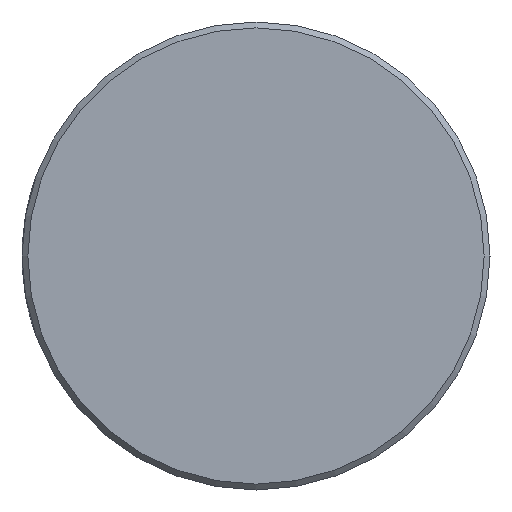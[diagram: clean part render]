
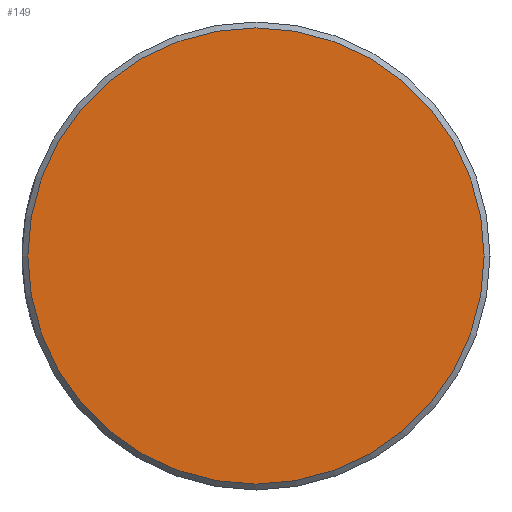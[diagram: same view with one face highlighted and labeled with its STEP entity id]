
A CAD part, left-side view. The second image highlights one B-rep face of the part: STEP entity #149.
In plain terms, the highlighted planar face has unit normal (-1, 0, 0).
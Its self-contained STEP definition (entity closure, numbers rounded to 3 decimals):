
#30=FACE_OUTER_BOUND('',#40,.T.);
#40=EDGE_LOOP('',(#117));
#66=CIRCLE('',#185,7.8);
#78=VERTEX_POINT('',#299);
#94=EDGE_CURVE('',#78,#78,#66,.T.);
#117=ORIENTED_EDGE('',*,*,#94,.F.);
#142=PLANE('',#184);
#149=ADVANCED_FACE('',(#30),#142,.T.);
#184=AXIS2_PLACEMENT_3D('',#298,#215,#216);
#185=AXIS2_PLACEMENT_3D('',#300,#217,#218);
#215=DIRECTION('center_axis',(-1.,0.,0.));
#216=DIRECTION('ref_axis',(0.,0.,1.));
#217=DIRECTION('center_axis',(1.,0.,0.));
#218=DIRECTION('ref_axis',(0.,0.,-1.));
#298=CARTESIAN_POINT('Origin',(-30.,7.8,0.));
#299=CARTESIAN_POINT('',(-30.,-7.8,0.));
#300=CARTESIAN_POINT('Origin',(-30.,0.,0.));
